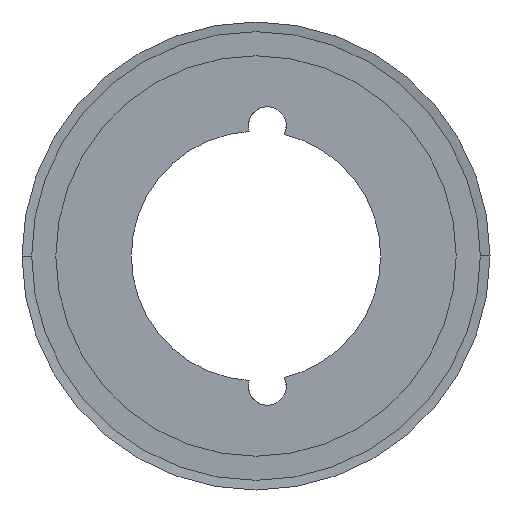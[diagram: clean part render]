
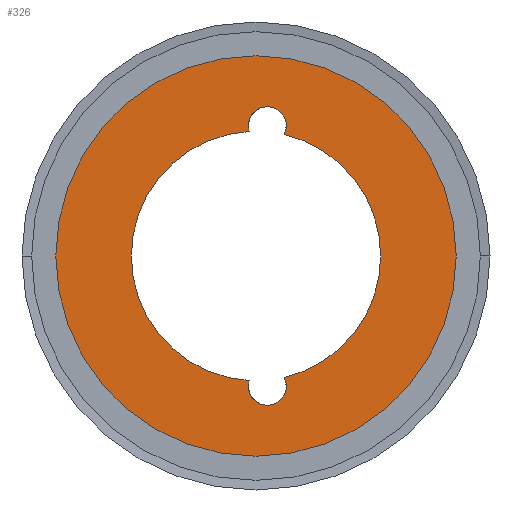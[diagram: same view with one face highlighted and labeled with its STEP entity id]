
A CAD part, left-side view. The second image highlights one B-rep face of the part: STEP entity #326.
In plain terms, the highlighted planar face has unit normal (-1, 0, 0).
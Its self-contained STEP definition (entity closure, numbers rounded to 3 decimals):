
#326 = ADVANCED_FACE( '', ( #835, #836 ), #837, .T. );
#835 = FACE_BOUND( '', #1345, .T. );
#836 = FACE_OUTER_BOUND( '', #1346, .T. );
#837 = PLANE( '', #1347 );
#1345 = EDGE_LOOP( '', ( #3545, #3546, #3547, #3548, #3549, #3550, #3551, #3552, #3553, #3554 ) );
#1346 = EDGE_LOOP( '', ( #3555, #3556 ) );
#1347 = AXIS2_PLACEMENT_3D( '', #3557, #3558, #3559 );
#3545 = ORIENTED_EDGE( '', *, *, #3617, .T. );
#3546 = ORIENTED_EDGE( '', *, *, #3620, .T. );
#3547 = ORIENTED_EDGE( '', *, *, #3619, .T. );
#3548 = ORIENTED_EDGE( '', *, *, #3612, .F. );
#3549 = ORIENTED_EDGE( '', *, *, #3624, .F. );
#3550 = ORIENTED_EDGE( '', *, *, #3627, .T. );
#3551 = ORIENTED_EDGE( '', *, *, #3603, .T. );
#3552 = ORIENTED_EDGE( '', *, *, #3598, .T. );
#3553 = ORIENTED_EDGE( '', *, *, #3625, .F. );
#3554 = ORIENTED_EDGE( '', *, *, #3610, .F. );
#3555 = ORIENTED_EDGE( '', *, *, #3563, .T. );
#3556 = ORIENTED_EDGE( '', *, *, #4287, .T. );
#3557 = CARTESIAN_POINT( '', ( 0., 33.671, 0. ) );
#3558 = DIRECTION( '', ( -1., 0., 0. ) );
#3559 = DIRECTION( '', ( 0., 1., 0. ) );
#3563 = EDGE_CURVE( '', #4289, #4293, #4295, .T. );
#3598 = EDGE_CURVE( '', #4353, #4356, #4358, .T. );
#3603 = EDGE_CURVE( '', #4360, #4353, #4367, .T. );
#3610 = EDGE_CURVE( '', #4378, #4368, #4380, .T. );
#3612 = EDGE_CURVE( '', #4381, #4384, #4385, .T. );
#3617 = EDGE_CURVE( '', #4378, #4391, #4393, .T. );
#3619 = EDGE_CURVE( '', #4394, #4384, #4396, .T. );
#3620 = EDGE_CURVE( '', #4391, #4394, #4397, .T. );
#3624 = EDGE_CURVE( '', #4400, #4381, #4402, .T. );
#3625 = EDGE_CURVE( '', #4368, #4356, #4403, .T. );
#3627 = EDGE_CURVE( '', #4400, #4360, #4405, .T. );
#4287 = EDGE_CURVE( '', #4293, #4289, #5497, .T. );
#4289 = VERTEX_POINT( '', #5499 );
#4293 = VERTEX_POINT( '', #5504 );
#4295 = CIRCLE( '', #5507, 41.5 );
#4353 = VERTEX_POINT( '', #5615 );
#4356 = VERTEX_POINT( '', #5619 );
#4358 = CIRCLE( '', #5630, 3.95 );
#4360 = VERTEX_POINT( '', #5632 );
#4367 = CIRCLE( '', #5658, 3.95 );
#4368 = VERTEX_POINT( '', #5659 );
#4378 = VERTEX_POINT( '', #5713 );
#4380 = CIRCLE( '', #5724, 25.843 );
#4381 = VERTEX_POINT( '', #5725 );
#4384 = VERTEX_POINT( '', #5729 );
#4385 = CIRCLE( '', #5730, 25.843 );
#4391 = VERTEX_POINT( '', #5754 );
#4393 = CIRCLE( '', #5757, 3.95 );
#4394 = VERTEX_POINT( '', #5758 );
#4396 = CIRCLE( '', #5761, 3.95 );
#4397 = CIRCLE( '', #5762, 3.95 );
#4400 = VERTEX_POINT( '', #5765 );
#4402 = CIRCLE( '', #5776, 25.843 );
#4403 = CIRCLE( '', #5777, 25.843 );
#4405 = CIRCLE( '', #5779, 3.95 );
#5497 = CIRCLE( '', #7231, 41.5 );
#5499 = CARTESIAN_POINT( '', ( 0., 41.5, 0. ) );
#5504 = CARTESIAN_POINT( '', ( 0., -41.5, 0. ) );
#5507 = AXIS2_PLACEMENT_3D( '', #7237, #7238, #7239 );
#5615 = CARTESIAN_POINT( '', ( 0., 1.598, -26.985 ) );
#5619 = CARTESIAN_POINT( '', ( 0., 1.417, -25.804 ) );
#5630 = AXIS2_PLACEMENT_3D( '', #7299, #7300, #7301 );
#5632 = CARTESIAN_POINT( '', ( 0., -6.302, -26.985 ) );
#5658 = AXIS2_PLACEMENT_3D( '', #7306, #7307, #7308 );
#5659 = CARTESIAN_POINT( '', ( 0., 25.843, 0. ) );
#5713 = CARTESIAN_POINT( '', ( 0., 1.417, 25.804 ) );
#5724 = AXIS2_PLACEMENT_3D( '', #7313, #7314, #7315 );
#5725 = CARTESIAN_POINT( '', ( 0., -25.843, 0. ) );
#5729 = CARTESIAN_POINT( '', ( 0., -5.86, 25.17 ) );
#5730 = AXIS2_PLACEMENT_3D( '', #7317, #7318, #7319 );
#5754 = CARTESIAN_POINT( '', ( 0., 1.598, 26.985 ) );
#5757 = AXIS2_PLACEMENT_3D( '', #7324, #7325, #7326 );
#5758 = CARTESIAN_POINT( '', ( 0., -6.302, 26.985 ) );
#5761 = AXIS2_PLACEMENT_3D( '', #7328, #7329, #7330 );
#5762 = AXIS2_PLACEMENT_3D( '', #7331, #7332, #7333 );
#5765 = CARTESIAN_POINT( '', ( 0., -5.86, -25.17 ) );
#5776 = AXIS2_PLACEMENT_3D( '', #7340, #7341, #7342 );
#5777 = AXIS2_PLACEMENT_3D( '', #7343, #7344, #7345 );
#5779 = AXIS2_PLACEMENT_3D( '', #7349, #7350, #7351 );
#7231 = AXIS2_PLACEMENT_3D( '', #8609, #8610, #8611 );
#7237 = CARTESIAN_POINT( '', ( 0., 0., 0. ) );
#7238 = DIRECTION( '', ( -1., 0., 0. ) );
#7239 = DIRECTION( '', ( 0., 1., 0. ) );
#7299 = CARTESIAN_POINT( '', ( 0., -2.352, -26.985 ) );
#7300 = DIRECTION( '', ( 1., 0., 0. ) );
#7301 = DIRECTION( '', ( 0., -1., 0. ) );
#7306 = CARTESIAN_POINT( '', ( 0., -2.352, -26.985 ) );
#7307 = DIRECTION( '', ( 1., 0., 0. ) );
#7308 = DIRECTION( '', ( 0., -1., 0. ) );
#7313 = CARTESIAN_POINT( '', ( 0., 0., 0. ) );
#7314 = DIRECTION( '', ( -1., 0., 0. ) );
#7315 = DIRECTION( '', ( 0., 1., 0. ) );
#7317 = CARTESIAN_POINT( '', ( 0., 0., 0. ) );
#7318 = DIRECTION( '', ( -1., 0., 0. ) );
#7319 = DIRECTION( '', ( 0., 1., 0. ) );
#7324 = CARTESIAN_POINT( '', ( 0., -2.352, 26.985 ) );
#7325 = DIRECTION( '', ( 1., 0., 0. ) );
#7326 = DIRECTION( '', ( 0., -1., 0. ) );
#7328 = CARTESIAN_POINT( '', ( 0., -2.352, 26.985 ) );
#7329 = DIRECTION( '', ( 1., 0., 0. ) );
#7330 = DIRECTION( '', ( 0., -1., 0. ) );
#7331 = CARTESIAN_POINT( '', ( 0., -2.352, 26.985 ) );
#7332 = DIRECTION( '', ( 1., 0., 0. ) );
#7333 = DIRECTION( '', ( 0., -1., 0. ) );
#7340 = CARTESIAN_POINT( '', ( 0., 0., 0. ) );
#7341 = DIRECTION( '', ( -1., 0., 0. ) );
#7342 = DIRECTION( '', ( 0., 1., 0. ) );
#7343 = CARTESIAN_POINT( '', ( 0., 0., 0. ) );
#7344 = DIRECTION( '', ( -1., 0., 0. ) );
#7345 = DIRECTION( '', ( 0., 1., 0. ) );
#7349 = CARTESIAN_POINT( '', ( 0., -2.352, -26.985 ) );
#7350 = DIRECTION( '', ( 1., 0., 0. ) );
#7351 = DIRECTION( '', ( 0., -1., 0. ) );
#8609 = CARTESIAN_POINT( '', ( 0., 0., 0. ) );
#8610 = DIRECTION( '', ( -1., 0., 0. ) );
#8611 = DIRECTION( '', ( 0., 1., 0. ) );
